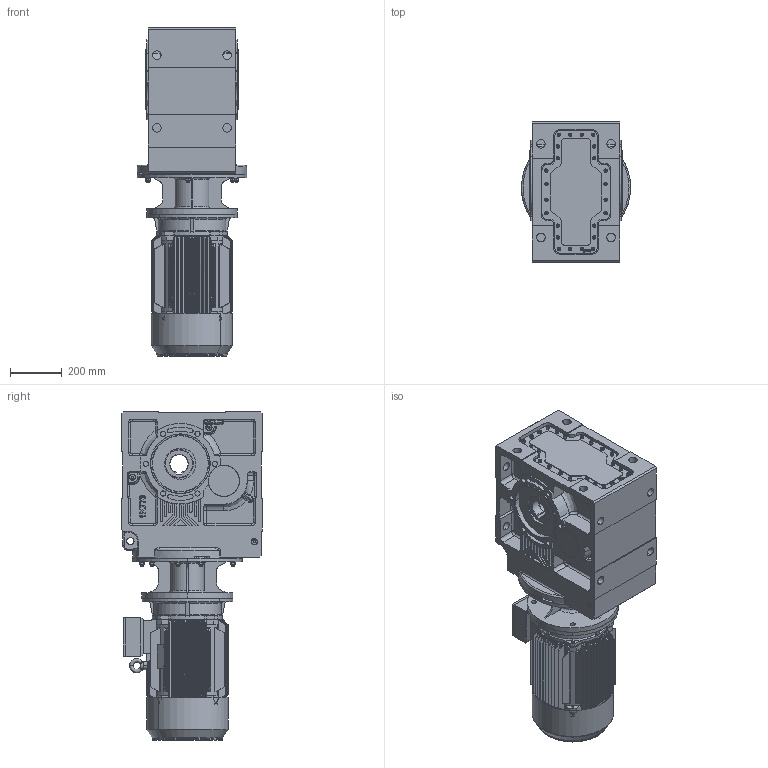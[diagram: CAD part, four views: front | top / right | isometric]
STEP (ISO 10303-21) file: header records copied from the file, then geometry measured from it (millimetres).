
FILE_DESCRIPTION (( 'STEP AP203' ), '1' );
FILE_NAME ('KV_773_0_160L-4.STEP', '2019-07-18T10:20:06', ( '' ), ( '' ), 'SwSTEP 2.0', 'SolidWorks 2012', '' );
FILE_SCHEMA (( 'CONFIG_CONTROL_DESIGN' ));
Products named in the file (15): KV_773_0_160L-4; M3-160L-FF-B5; Y2-160_shaft; Y2-160-2ª¥--®+_-++ñ; Eyebolts GB_GB_FASTENER_SCREWS_FRS M12N; +¦i-MN2-160_-++ñ; +ª+§ªiY2-160ñ»ª­_-++ñ; Y2-160ñ»ª­+¿_-++ñ; Y2-160-4Ý¾6Ý¾8-ª+---®+_-++ñ; Y2-160L+À+¿(B5)_-++ñ; 73160B5_Varsayìlan; Y2-160-180ñ»ª­®+_-++ñ; KN_77_3_0_A-B16_B5_ML60A_0_0_0_0_0_0_0_0_0_0_0_0_M1; ML60A_Varsayìlan; K773_Varsayìlan
Assembly tree (14 placements, depth 4):
  KV_773_0_160L-4
    KN_77_3_0_A-B16_B5_ML60A_0_0_0_0_0_0_0_0_0_0_0_0_M1
      K773_Varsayìlan
      73160B5_Varsayìlan
      ML60A_Varsayìlan
    M3-160L-FF-B5
      +ª+§ªiY2-160ñ»ª­_-++ñ
        Y2-160-180ñ»ª­®+_-++ñ
        Y2-160ñ»ª­+¿_-++ñ
      Y2-160-4Ý¾6Ý¾8-ª+---®+_-++ñ
      Y2-160L+À+¿(B5)_-++ñ
      Eyebolts GB_GB_FASTENER_SCREWS_FRS M12N
      Y2-160-2ª¥--®+_-++ñ
      +¦i-MN2-160_-++ñ
      Y2-160_shaft
Bounding box: 420 x 540 x 1264 mm (x, y, z)
Volume: 94953592.5 mm3; surface area: 5267398.5 mm2
Topology: 11 solids, 11 shells, 3228 faces, 8312 edges, 5223 vertices
Faces by surface type: plane 1266, cylinder 1097, bspline 387, cone 371, torus 67, sphere 40
Entity records: 147165 total; most frequent: CARTESIAN_POINT 70703, ORIENTED_EDGE 16418, DIRECTION 14425, EDGE_CURVE 8209, AXIS2_PLACEMENT_3D 5277, VERTEX_POINT 5208, VECTOR 3871, LINE 3871
